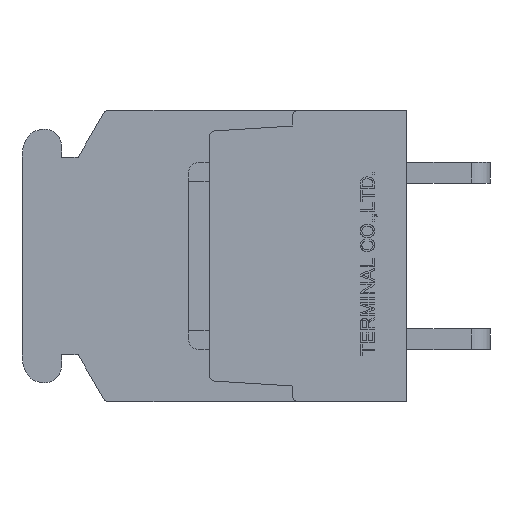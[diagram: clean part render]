
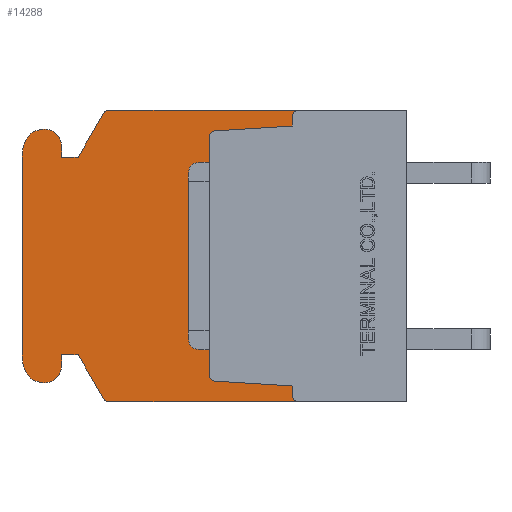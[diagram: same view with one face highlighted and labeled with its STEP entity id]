
A CAD part, left-side view. The second image highlights one B-rep face of the part: STEP entity #14288.
In plain terms, the highlighted planar face has unit normal (-1, 0, 0).
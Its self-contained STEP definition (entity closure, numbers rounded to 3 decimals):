
#780=CIRCLE('',#15310,0.3);
#781=CIRCLE('',#15311,0.3);
#782=CIRCLE('',#15312,0.3);
#783=CIRCLE('',#15313,0.3);
#784=CIRCLE('',#15314,0.3);
#785=CIRCLE('',#15315,0.8);
#786=CIRCLE('',#15316,1.);
#787=CIRCLE('',#15317,2.);
#788=CIRCLE('',#15318,2.);
#789=CIRCLE('',#15319,1.);
#790=CIRCLE('',#15320,0.8);
#791=CIRCLE('',#15321,0.3);
#1482=VERTEX_POINT('',#20675);
#1483=VERTEX_POINT('',#20676);
#1484=VERTEX_POINT('',#20678);
#1485=VERTEX_POINT('',#20680);
#1486=VERTEX_POINT('',#20682);
#1487=VERTEX_POINT('',#20684);
#1488=VERTEX_POINT('',#20686);
#1489=VERTEX_POINT('',#20688);
#1490=VERTEX_POINT('',#20690);
#1491=VERTEX_POINT('',#20692);
#1492=VERTEX_POINT('',#20694);
#1493=VERTEX_POINT('',#20696);
#1494=VERTEX_POINT('',#20698);
#1495=VERTEX_POINT('',#20700);
#1496=VERTEX_POINT('',#20702);
#1497=VERTEX_POINT('',#20704);
#1498=VERTEX_POINT('',#20706);
#1499=VERTEX_POINT('',#20708);
#1500=VERTEX_POINT('',#20710);
#1501=VERTEX_POINT('',#20712);
#1502=VERTEX_POINT('',#20714);
#1503=VERTEX_POINT('',#20716);
#1504=VERTEX_POINT('',#20718);
#1505=VERTEX_POINT('',#20720);
#1506=VERTEX_POINT('',#20722);
#1507=VERTEX_POINT('',#20724);
#1508=VERTEX_POINT('',#20726);
#1509=VERTEX_POINT('',#20728);
#2979=VECTOR('',#17237,1.);
#2980=VECTOR('',#17238,1.);
#2981=VECTOR('',#17241,1.);
#2982=VECTOR('',#17244,1.);
#2983=VECTOR('',#17245,1.);
#2984=VECTOR('',#17248,1.);
#2985=VECTOR('',#17251,1.);
#2986=VECTOR('',#17252,1.);
#2987=VECTOR('',#17253,1.);
#2988=VECTOR('',#17256,1.);
#2989=VECTOR('',#17261,1.);
#2990=VECTOR('',#17266,1.);
#2991=VECTOR('',#17269,1.);
#2992=VECTOR('',#17270,1.);
#2993=VECTOR('',#17271,1.);
#2994=VECTOR('',#17274,1.);
#4622=LINE('',#20677,#2979);
#4623=LINE('',#20679,#2980);
#4624=LINE('',#20683,#2981);
#4625=LINE('',#20687,#2982);
#4626=LINE('',#20689,#2983);
#4627=LINE('',#20693,#2984);
#4628=LINE('',#20697,#2985);
#4629=LINE('',#20699,#2986);
#4630=LINE('',#20701,#2987);
#4631=LINE('',#20705,#2988);
#4632=LINE('',#20711,#2989);
#4633=LINE('',#20717,#2990);
#4634=LINE('',#20721,#2991);
#4635=LINE('',#20723,#2992);
#4636=LINE('',#20725,#2993);
#4637=LINE('',#20729,#2994);
#6538=EDGE_CURVE('',#1482,#1483,#780,.T.);
#6539=EDGE_CURVE('',#1484,#1482,#4622,.T.);
#6540=EDGE_CURVE('',#1485,#1484,#4623,.T.);
#6541=EDGE_CURVE('',#1486,#1485,#781,.T.);
#6542=EDGE_CURVE('',#1487,#1486,#4624,.T.);
#6543=EDGE_CURVE('',#1488,#1487,#782,.T.);
#6544=EDGE_CURVE('',#1489,#1488,#4625,.T.);
#6545=EDGE_CURVE('',#1490,#1489,#4626,.T.);
#6546=EDGE_CURVE('',#1491,#1490,#783,.T.);
#6547=EDGE_CURVE('',#1492,#1491,#4627,.T.);
#6548=EDGE_CURVE('',#1493,#1492,#784,.T.);
#6549=EDGE_CURVE('',#1494,#1493,#4628,.T.);
#6550=EDGE_CURVE('',#1495,#1494,#4629,.T.);
#6551=EDGE_CURVE('',#1496,#1495,#4630,.T.);
#6552=EDGE_CURVE('',#1497,#1496,#785,.T.);
#6553=EDGE_CURVE('',#1498,#1497,#4631,.T.);
#6554=EDGE_CURVE('',#1499,#1498,#786,.T.);
#6555=EDGE_CURVE('',#1500,#1499,#787,.T.);
#6556=EDGE_CURVE('',#1501,#1500,#4632,.T.);
#6557=EDGE_CURVE('',#1502,#1501,#788,.T.);
#6558=EDGE_CURVE('',#1503,#1502,#789,.T.);
#6559=EDGE_CURVE('',#1504,#1503,#4633,.T.);
#6560=EDGE_CURVE('',#1505,#1504,#790,.T.);
#6561=EDGE_CURVE('',#1506,#1505,#4634,.T.);
#6562=EDGE_CURVE('',#1507,#1506,#4635,.T.);
#6563=EDGE_CURVE('',#1508,#1507,#4636,.T.);
#6564=EDGE_CURVE('',#1509,#1508,#791,.T.);
#6565=EDGE_CURVE('',#1483,#1509,#4637,.T.);
#9573=ORIENTED_EDGE('',*,*,#6538,.F.);
#9574=ORIENTED_EDGE('',*,*,#6539,.F.);
#9575=ORIENTED_EDGE('',*,*,#6540,.F.);
#9576=ORIENTED_EDGE('',*,*,#6541,.F.);
#9577=ORIENTED_EDGE('',*,*,#6542,.F.);
#9578=ORIENTED_EDGE('',*,*,#6543,.F.);
#9579=ORIENTED_EDGE('',*,*,#6544,.F.);
#9580=ORIENTED_EDGE('',*,*,#6545,.F.);
#9581=ORIENTED_EDGE('',*,*,#6546,.F.);
#9582=ORIENTED_EDGE('',*,*,#6547,.F.);
#9583=ORIENTED_EDGE('',*,*,#6548,.F.);
#9584=ORIENTED_EDGE('',*,*,#6549,.F.);
#9585=ORIENTED_EDGE('',*,*,#6550,.F.);
#9586=ORIENTED_EDGE('',*,*,#6551,.F.);
#9587=ORIENTED_EDGE('',*,*,#6552,.F.);
#9588=ORIENTED_EDGE('',*,*,#6553,.F.);
#9589=ORIENTED_EDGE('',*,*,#6554,.F.);
#9590=ORIENTED_EDGE('',*,*,#6555,.F.);
#9591=ORIENTED_EDGE('',*,*,#6556,.F.);
#9592=ORIENTED_EDGE('',*,*,#6557,.F.);
#9593=ORIENTED_EDGE('',*,*,#6558,.F.);
#9594=ORIENTED_EDGE('',*,*,#6559,.F.);
#9595=ORIENTED_EDGE('',*,*,#6560,.F.);
#9596=ORIENTED_EDGE('',*,*,#6561,.F.);
#9597=ORIENTED_EDGE('',*,*,#6562,.F.);
#9598=ORIENTED_EDGE('',*,*,#6563,.F.);
#9599=ORIENTED_EDGE('',*,*,#6564,.F.);
#9600=ORIENTED_EDGE('',*,*,#6565,.F.);
#12533=EDGE_LOOP('',(#9573,#9574,#9575,#9576,#9577,#9578,#9579,#9580,#9581,
#9582,#9583,#9584,#9585,#9586,#9587,#9588,#9589,#9590,#9591,#9592,#9593,
#9594,#9595,#9596,#9597,#9598,#9599,#9600));
#13429=FACE_BOUND('',#12533,.T.);
#14288=ADVANCED_FACE('',(#13429),#24339,.F.);
#15309=AXIS2_PLACEMENT_3D('',#20673,#17234,$);
#15310=AXIS2_PLACEMENT_3D('',#20674,#17235,#17236);
#15311=AXIS2_PLACEMENT_3D('',#20681,#17239,#17240);
#15312=AXIS2_PLACEMENT_3D('',#20685,#17242,#17243);
#15313=AXIS2_PLACEMENT_3D('',#20691,#17246,#17247);
#15314=AXIS2_PLACEMENT_3D('',#20695,#17249,#17250);
#15315=AXIS2_PLACEMENT_3D('',#20703,#17254,#17255);
#15316=AXIS2_PLACEMENT_3D('',#20707,#17257,#17258);
#15317=AXIS2_PLACEMENT_3D('',#20709,#17259,#17260);
#15318=AXIS2_PLACEMENT_3D('',#20713,#17262,#17263);
#15319=AXIS2_PLACEMENT_3D('',#20715,#17264,#17265);
#15320=AXIS2_PLACEMENT_3D('',#20719,#17267,#17268);
#15321=AXIS2_PLACEMENT_3D('',#20727,#17272,#17273);
#17234=DIRECTION('',(1.,0.,0.));
#17235=DIRECTION('',(-1.,0.,0.));
#17236=DIRECTION('',(0.,0.,-0.3));
#17237=DIRECTION('',(0.,0.,-1.));
#17238=DIRECTION('',(0.,-0.998,-0.062));
#17239=DIRECTION('',(-1.,0.,0.));
#17240=DIRECTION('',(0.,0.,-0.3));
#17241=DIRECTION('',(0.,0.,-1.));
#17242=DIRECTION('',(-1.,0.,0.));
#17243=DIRECTION('',(0.,0.,-0.3));
#17244=DIRECTION('',(0.,0.998,-0.062));
#17245=DIRECTION('',(0.,0.,-1.));
#17246=DIRECTION('',(-1.,0.,0.));
#17247=DIRECTION('',(0.,0.,-0.3));
#17248=DIRECTION('',(0.,-1.,0.));
#17249=DIRECTION('',(1.,0.,0.));
#17250=DIRECTION('',(0.,0.,-0.3));
#17251=DIRECTION('',(0.,-0.5,0.866));
#17252=DIRECTION('',(0.,-1.,0.));
#17253=DIRECTION('',(0.,0.,-1.));
#17254=DIRECTION('',(1.,0.,0.));
#17255=DIRECTION('',(0.,0.,-0.8));
#17256=DIRECTION('',(0.,-1.,0.));
#17257=DIRECTION('',(1.,0.,0.));
#17258=DIRECTION('',(0.,0.,-1.));
#17259=DIRECTION('',(1.,0.,0.));
#17260=DIRECTION('',(0.,0.,-2.));
#17261=DIRECTION('',(0.,0.,1.));
#17262=DIRECTION('',(1.,0.,0.));
#17263=DIRECTION('',(0.,0.,-2.));
#17264=DIRECTION('',(1.,0.,0.));
#17265=DIRECTION('',(0.,0.,-1.));
#17266=DIRECTION('',(0.,1.,0.));
#17267=DIRECTION('',(1.,0.,0.));
#17268=DIRECTION('',(0.,0.,-0.8));
#17269=DIRECTION('',(0.,0.,-1.));
#17270=DIRECTION('',(0.,1.,0.));
#17271=DIRECTION('',(0.,0.5,0.866));
#17272=DIRECTION('',(1.,0.,0.));
#17273=DIRECTION('',(0.,0.,-0.3));
#17274=DIRECTION('',(0.,1.,0.));
#20673=CARTESIAN_POINT('',(8.15,9.311,0.));
#20674=CARTESIAN_POINT('',(8.15,5.2,-6.7));
#20675=CARTESIAN_POINT('',(8.15,5.5,-6.7));
#20676=CARTESIAN_POINT('',(8.15,5.2,-7.));
#20677=CARTESIAN_POINT('',(8.15,5.5,-6.7));
#20678=CARTESIAN_POINT('',(8.15,5.5,-6.25));
#20679=CARTESIAN_POINT('',(8.15,5.5,-6.25));
#20680=CARTESIAN_POINT('',(8.15,9.219,-6.018));
#20681=CARTESIAN_POINT('',(8.15,9.2,-5.718));
#20682=CARTESIAN_POINT('',(8.15,9.5,-5.718));
#20683=CARTESIAN_POINT('',(8.15,9.5,-5.718));
#20684=CARTESIAN_POINT('',(8.15,9.5,5.718));
#20685=CARTESIAN_POINT('',(8.15,9.2,5.718));
#20686=CARTESIAN_POINT('',(8.15,9.219,6.018));
#20687=CARTESIAN_POINT('',(8.15,9.219,6.018));
#20688=CARTESIAN_POINT('',(8.15,5.5,6.25));
#20689=CARTESIAN_POINT('',(8.15,5.5,6.25));
#20690=CARTESIAN_POINT('',(8.15,5.5,6.7));
#20691=CARTESIAN_POINT('',(8.15,5.2,6.7));
#20692=CARTESIAN_POINT('',(8.15,5.2,7.));
#20693=CARTESIAN_POINT('',(8.15,14.327,7.));
#20694=CARTESIAN_POINT('',(8.15,14.327,7.));
#20695=CARTESIAN_POINT('',(8.15,14.327,6.7));
#20696=CARTESIAN_POINT('',(8.15,14.587,6.85));
#20697=CARTESIAN_POINT('',(8.15,15.8,4.75));
#20698=CARTESIAN_POINT('',(8.15,15.8,4.75));
#20699=CARTESIAN_POINT('',(8.15,16.6,4.75));
#20700=CARTESIAN_POINT('',(8.15,16.6,4.75));
#20701=CARTESIAN_POINT('',(8.15,16.6,5.3));
#20702=CARTESIAN_POINT('',(8.15,16.6,5.3));
#20703=CARTESIAN_POINT('',(8.15,17.4,5.3));
#20704=CARTESIAN_POINT('',(8.15,17.4,6.1));
#20705=CARTESIAN_POINT('',(8.15,17.437,6.1));
#20706=CARTESIAN_POINT('',(8.15,17.437,6.1));
#20707=CARTESIAN_POINT('',(8.15,17.437,5.1));
#20708=CARTESIAN_POINT('',(8.15,18.373,5.45));
#20709=CARTESIAN_POINT('',(8.15,16.5,4.75));
#20710=CARTESIAN_POINT('',(8.15,18.5,4.75));
#20711=CARTESIAN_POINT('',(8.15,18.5,-4.75));
#20712=CARTESIAN_POINT('',(8.15,18.5,-4.75));
#20713=CARTESIAN_POINT('',(8.15,16.5,-4.75));
#20714=CARTESIAN_POINT('',(8.15,18.373,-5.45));
#20715=CARTESIAN_POINT('',(8.15,17.437,-5.1));
#20716=CARTESIAN_POINT('',(8.15,17.437,-6.1));
#20717=CARTESIAN_POINT('',(8.15,17.4,-6.1));
#20718=CARTESIAN_POINT('',(8.15,17.4,-6.1));
#20719=CARTESIAN_POINT('',(8.15,17.4,-5.3));
#20720=CARTESIAN_POINT('',(8.15,16.6,-5.3));
#20721=CARTESIAN_POINT('',(8.15,16.6,-4.75));
#20722=CARTESIAN_POINT('',(8.15,16.6,-4.75));
#20723=CARTESIAN_POINT('',(8.15,15.8,-4.75));
#20724=CARTESIAN_POINT('',(8.15,15.8,-4.75));
#20725=CARTESIAN_POINT('',(8.15,14.587,-6.85));
#20726=CARTESIAN_POINT('',(8.15,14.587,-6.85));
#20727=CARTESIAN_POINT('',(8.15,14.327,-6.7));
#20728=CARTESIAN_POINT('',(8.15,14.327,-7.));
#20729=CARTESIAN_POINT('',(8.15,0.,-7.));
#24339=PLANE('',#15309);
